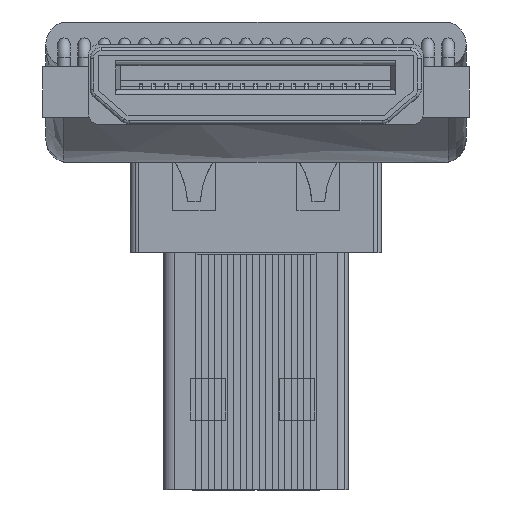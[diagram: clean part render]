
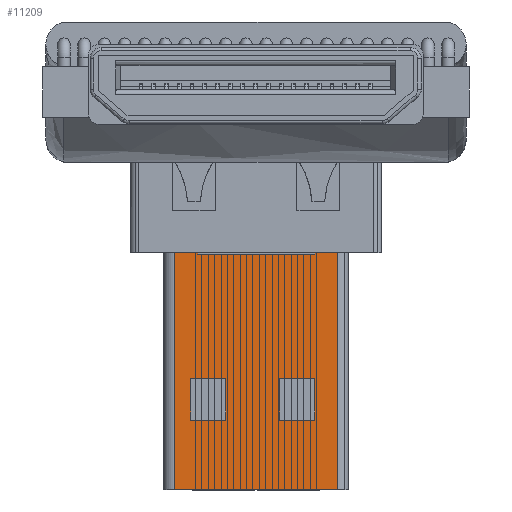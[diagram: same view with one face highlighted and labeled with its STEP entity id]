
A CAD part, front view. The second image highlights one B-rep face of the part: STEP entity #11209.
In plain terms, the highlighted planar face has unit normal (0, -1, 0).
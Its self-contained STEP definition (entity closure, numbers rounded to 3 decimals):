
#10382 = VERTEX_POINT('',#10383);
#10383 = CARTESIAN_POINT('',(66.415,26.884,0.));
#10390 = EDGE_CURVE('',#10382,#10391,#10393,.T.);
#10391 = VERTEX_POINT('',#10392);
#10392 = CARTESIAN_POINT('',(65.688,26.884,0.));
#10393 = LINE('',#10394,#10395);
#10394 = CARTESIAN_POINT('',(0.,26.884,0.));
#10395 = VECTOR('',#10396,1.);
#10396 = DIRECTION('',(-1.,0.,0.));
#10406 = VERTEX_POINT('',#10407);
#10407 = CARTESIAN_POINT('',(62.011,26.884,0.));
#10413 = EDGE_CURVE('',#10406,#10414,#10416,.T.);
#10414 = VERTEX_POINT('',#10415);
#10415 = CARTESIAN_POINT('',(61.285,26.884,0.));
#10416 = LINE('',#10417,#10418);
#10417 = CARTESIAN_POINT('',(0.,26.884,0.));
#10418 = VECTOR('',#10419,1.);
#10419 = DIRECTION('',(-1.,0.,0.));
#11150 = VERTEX_POINT('',#11151);
#11151 = CARTESIAN_POINT('',(62.011,26.884,0.05));
#11157 = EDGE_CURVE('',#11150,#10406,#11158,.T.);
#11158 = LINE('',#11159,#11160);
#11159 = CARTESIAN_POINT('',(62.011,26.884,0.05));
#11160 = VECTOR('',#11161,1.);
#11161 = DIRECTION('',(0.,0.,-1.));
#11173 = EDGE_CURVE('',#11174,#10391,#11176,.T.);
#11174 = VERTEX_POINT('',#11175);
#11175 = CARTESIAN_POINT('',(65.688,26.884,0.05));
#11176 = LINE('',#11177,#11178);
#11177 = CARTESIAN_POINT('',(65.688,26.884,0.05));
#11178 = VECTOR('',#11179,1.);
#11179 = DIRECTION('',(0.,0.,-1.));
#11199 = EDGE_CURVE('',#11174,#11150,#11200,.T.);
#11200 = LINE('',#11201,#11202);
#11201 = CARTESIAN_POINT('',(65.688,26.884,0.05));
#11202 = VECTOR('',#11203,1.);
#11203 = DIRECTION('',(-1.,0.,0.));
#11209 = ADVANCED_FACE('',(#11210,#11244,#11278),#11307,.T.);
#11210 = FACE_BOUND('',#11211,.T.);
#11211 = EDGE_LOOP('',(#11212,#11222,#11230,#11238));
#11212 = ORIENTED_EDGE('',*,*,#11213,.F.);
#11213 = EDGE_CURVE('',#11214,#11216,#11218,.T.);
#11214 = VERTEX_POINT('',#11215);
#11215 = CARTESIAN_POINT('',(63.1,26.884,
    3.956));
#11216 = VERTEX_POINT('',#11217);
#11217 = CARTESIAN_POINT('',(63.1,26.884,
    5.253));
#11218 = LINE('',#11219,#11220);
#11219 = CARTESIAN_POINT('',(63.1,26.884,
    5.253));
#11220 = VECTOR('',#11221,1.);
#11221 = DIRECTION('',(0.,0.,1.));
#11222 = ORIENTED_EDGE('',*,*,#11223,.F.);
#11223 = EDGE_CURVE('',#11224,#11214,#11226,.T.);
#11224 = VERTEX_POINT('',#11225);
#11225 = CARTESIAN_POINT('',(62.,26.884,
    3.956));
#11226 = LINE('',#11227,#11228);
#11227 = CARTESIAN_POINT('',(62.,26.884,
    3.956));
#11228 = VECTOR('',#11229,1.);
#11229 = DIRECTION('',(1.,0.,0.));
#11230 = ORIENTED_EDGE('',*,*,#11231,.F.);
#11231 = EDGE_CURVE('',#11232,#11224,#11234,.T.);
#11232 = VERTEX_POINT('',#11233);
#11233 = CARTESIAN_POINT('',(62.,26.884,
    5.253));
#11234 = LINE('',#11235,#11236);
#11235 = CARTESIAN_POINT('',(62.,26.884,
    5.253));
#11236 = VECTOR('',#11237,1.);
#11237 = DIRECTION('',(0.,0.,-1.));
#11238 = ORIENTED_EDGE('',*,*,#11239,.F.);
#11239 = EDGE_CURVE('',#11216,#11232,#11240,.T.);
#11240 = LINE('',#11241,#11242);
#11241 = CARTESIAN_POINT('',(62.,26.884,
    5.253));
#11242 = VECTOR('',#11243,1.);
#11243 = DIRECTION('',(-1.,0.,0.));
#11244 = FACE_BOUND('',#11245,.T.);
#11245 = EDGE_LOOP('',(#11246,#11256,#11264,#11272));
#11246 = ORIENTED_EDGE('',*,*,#11247,.F.);
#11247 = EDGE_CURVE('',#11248,#11250,#11252,.T.);
#11248 = VERTEX_POINT('',#11249);
#11249 = CARTESIAN_POINT('',(65.9,26.884,
    3.956));
#11250 = VERTEX_POINT('',#11251);
#11251 = CARTESIAN_POINT('',(65.9,26.884,
    5.253));
#11252 = LINE('',#11253,#11254);
#11253 = CARTESIAN_POINT('',(65.9,26.884,
    5.253));
#11254 = VECTOR('',#11255,1.);
#11255 = DIRECTION('',(0.,0.,1.));
#11256 = ORIENTED_EDGE('',*,*,#11257,.F.);
#11257 = EDGE_CURVE('',#11258,#11248,#11260,.T.);
#11258 = VERTEX_POINT('',#11259);
#11259 = CARTESIAN_POINT('',(64.8,26.884,
    3.956));
#11260 = LINE('',#11261,#11262);
#11261 = CARTESIAN_POINT('',(64.8,26.884,
    3.956));
#11262 = VECTOR('',#11263,1.);
#11263 = DIRECTION('',(1.,0.,0.));
#11264 = ORIENTED_EDGE('',*,*,#11265,.F.);
#11265 = EDGE_CURVE('',#11266,#11258,#11268,.T.);
#11266 = VERTEX_POINT('',#11267);
#11267 = CARTESIAN_POINT('',(64.8,26.884,
    5.253));
#11268 = LINE('',#11269,#11270);
#11269 = CARTESIAN_POINT('',(64.8,26.884,
    5.253));
#11270 = VECTOR('',#11271,1.);
#11271 = DIRECTION('',(0.,0.,-1.));
#11272 = ORIENTED_EDGE('',*,*,#11273,.F.);
#11273 = EDGE_CURVE('',#11250,#11266,#11274,.T.);
#11274 = LINE('',#11275,#11276);
#11275 = CARTESIAN_POINT('',(64.8,26.884,
    5.253));
#11276 = VECTOR('',#11277,1.);
#11277 = DIRECTION('',(-1.,0.,0.));
#11278 = FACE_BOUND('',#11279,.T.);
#11279 = EDGE_LOOP('',(#11280,#11281,#11282,#11283,#11284,#11292,#11300,
    #11306));
#11280 = ORIENTED_EDGE('',*,*,#11157,.F.);
#11281 = ORIENTED_EDGE('',*,*,#11199,.F.);
#11282 = ORIENTED_EDGE('',*,*,#11173,.T.);
#11283 = ORIENTED_EDGE('',*,*,#10390,.F.);
#11284 = ORIENTED_EDGE('',*,*,#11285,.F.);
#11285 = EDGE_CURVE('',#11286,#10382,#11288,.T.);
#11286 = VERTEX_POINT('',#11287);
#11287 = CARTESIAN_POINT('',(66.415,26.884,7.45));
#11288 = LINE('',#11289,#11290);
#11289 = CARTESIAN_POINT('',(66.415,26.884,7.45));
#11290 = VECTOR('',#11291,1.);
#11291 = DIRECTION('',(0.,0.,-1.));
#11292 = ORIENTED_EDGE('',*,*,#11293,.T.);
#11293 = EDGE_CURVE('',#11286,#11294,#11296,.T.);
#11294 = VERTEX_POINT('',#11295);
#11295 = CARTESIAN_POINT('',(61.285,26.884,7.45));
#11296 = LINE('',#11297,#11298);
#11297 = CARTESIAN_POINT('',(0.,26.884,7.45));
#11298 = VECTOR('',#11299,1.);
#11299 = DIRECTION('',(-1.,0.,0.));
#11300 = ORIENTED_EDGE('',*,*,#11301,.T.);
#11301 = EDGE_CURVE('',#11294,#10414,#11302,.T.);
#11302 = LINE('',#11303,#11304);
#11303 = CARTESIAN_POINT('',(61.285,26.884,7.45));
#11304 = VECTOR('',#11305,1.);
#11305 = DIRECTION('',(0.,0.,-1.));
#11306 = ORIENTED_EDGE('',*,*,#10413,.F.);
#11307 = PLANE('',#11308);
#11308 = AXIS2_PLACEMENT_3D('',#11309,#11310,#11311);
#11309 = CARTESIAN_POINT('',(0.,26.884,7.45));
#11310 = DIRECTION('',(0.,-1.,0.));
#11311 = DIRECTION('',(0.,0.,-1.));
